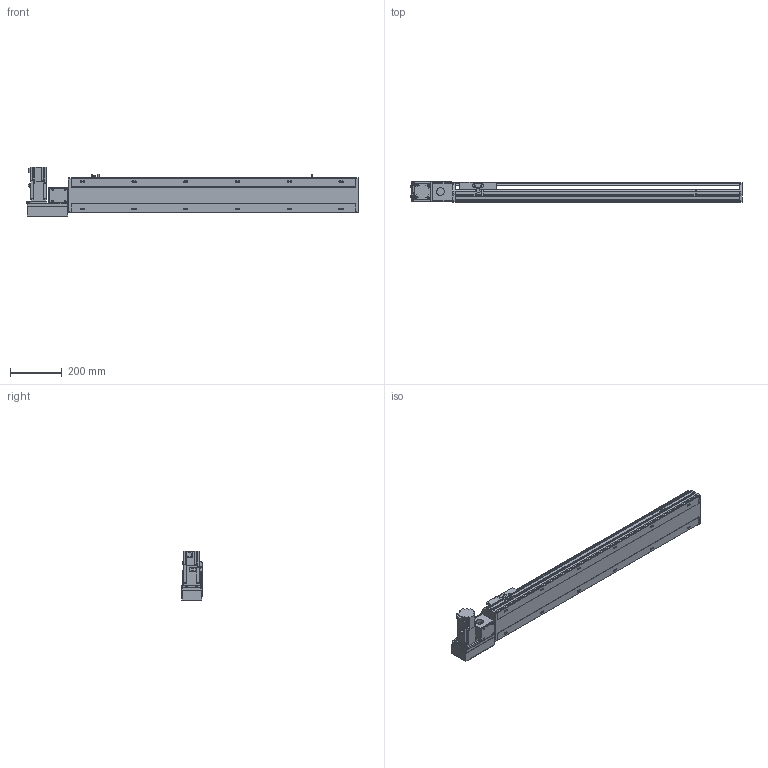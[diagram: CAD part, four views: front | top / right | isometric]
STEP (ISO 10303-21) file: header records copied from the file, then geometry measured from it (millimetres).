
FILE_DESCRIPTION( ( 'STEP AP214' ), '1' );
FILE_NAME( 'x:/temp/worker_27/temp/exporttempdir_6708_295_kybRv/format_0/PBS140-P40-S850-L-T40-C1-N(0).stp', '2022-06-06T01:01:20', ( 'License CC BY-ND 4.0' ), ( 'CADENAS' ), ' ', 'PARTsolutions', ' ' );
FILE_SCHEMA( ( 'AUTOMOTIVE_DESIGN { 1 0 10303 214 1 1 1 1 }' ) );
Length unit declared in the file: millimetre
Products named in the file (7): PBS140-P40-S850-L-T40-C1-N(0); _PBS140-S850()_body; _PBS140T-L_motors; _T40-p1; _PBS140_sliser; _PBS140_plant; _PBS140_sensor
Assembly tree (8 placements, depth 2):
  PBS140-P40-S850-L-T40-C1-N(0)
    _PBS140-S850()_body
    _PBS140T-L_motors
    _T40-p1
    _PBS140_sliser
    _PBS140_plant
    _PBS140_sensor  x3
Bounding box: 1283 x 80.5 x 189.7 mm (x, y, z)
Volume: 5885635.7 mm3; surface area: 1035058 mm2
Topology: 8 solids, 8 shells, 1043 faces, 2756 edges, 1801 vertices
Faces by surface type: plane 680, cylinder 315, cone 38, sphere 8, torus 2
Full cylindrical faces by diameter (mm): 3.242 x4, 4 x2, 4.134 x4, 4.4 x8, 4.5 x2, 4.8 x4, 4.917 x20, 5.5 x7, 6 x2, 7 x14, 7.5 x8, 8 x12, 8.5 x4, 10.5 x12, 14 x1, 30 x2, 50 x2
Entity records: 38005 total; most frequent: CARTESIAN_POINT 5915, DIRECTION 5057, ORIENTED_EDGE 4792, EDGE_CURVE 2396, AXIS2_PLACEMENT_3D 1747, VERTEX_POINT 1653, LINE 1563, VECTOR 1563
